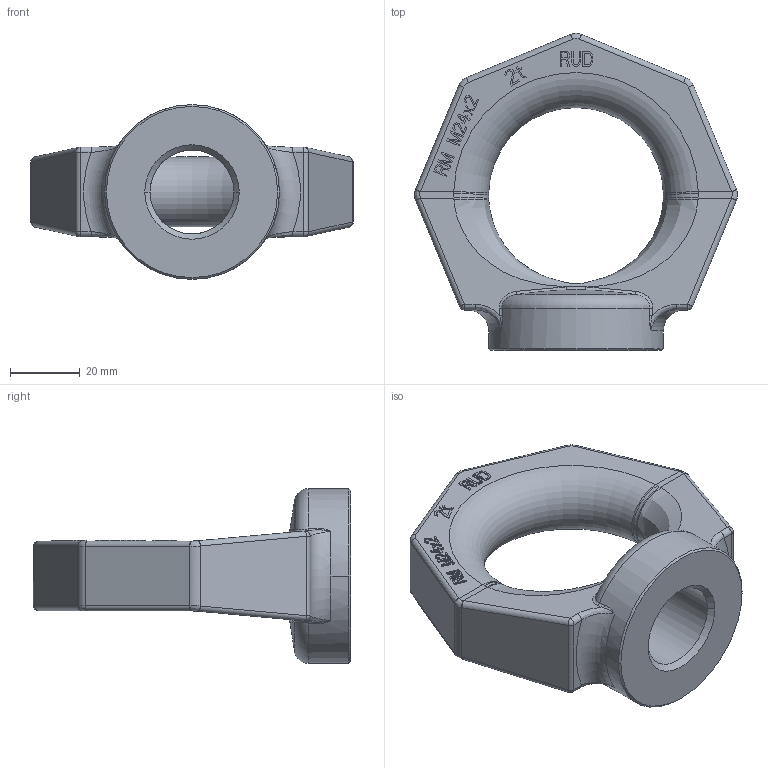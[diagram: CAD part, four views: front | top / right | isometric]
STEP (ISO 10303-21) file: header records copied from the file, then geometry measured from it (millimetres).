
FILE_DESCRIPTION((''),'2;1');
FILE_NAME('001-M31737-P-4','2018-04-11T',('Roland.Jakubetz'),(''),'PRO/ENGINEER BY PARAMETRIC TECHNOLOGY CORPORATION, 2011490','PRO/ENGINEER BY PARAMETRIC TECHNOLOGY CORPORATION, 2011490','');
FILE_SCHEMA(('CONFIG_CONTROL_DESIGN'));
Length unit declared in the file: millimetre
Products named in the file (1): 001-M31737-P-4
Bounding box: 92.42 x 90.7 x 50 mm (x, y, z)
Volume: 91550.2 mm3; surface area: 19360.2 mm2
Topology: 1 solids, 1 shells, 392 faces, 1053 edges, 676 vertices
Faces by surface type: plane 290, bspline 44, cylinder 33, torus 15, cone 6, sphere 4
Entity records: 14375 total; most frequent: CARTESIAN_POINT 4813, ORIENTED_EDGE 2106, DIRECTION 1767, EDGE_CURVE 1053, VECTOR 839, LINE 839, VERTEX_POINT 676, AXIS2_PLACEMENT_3D 464
